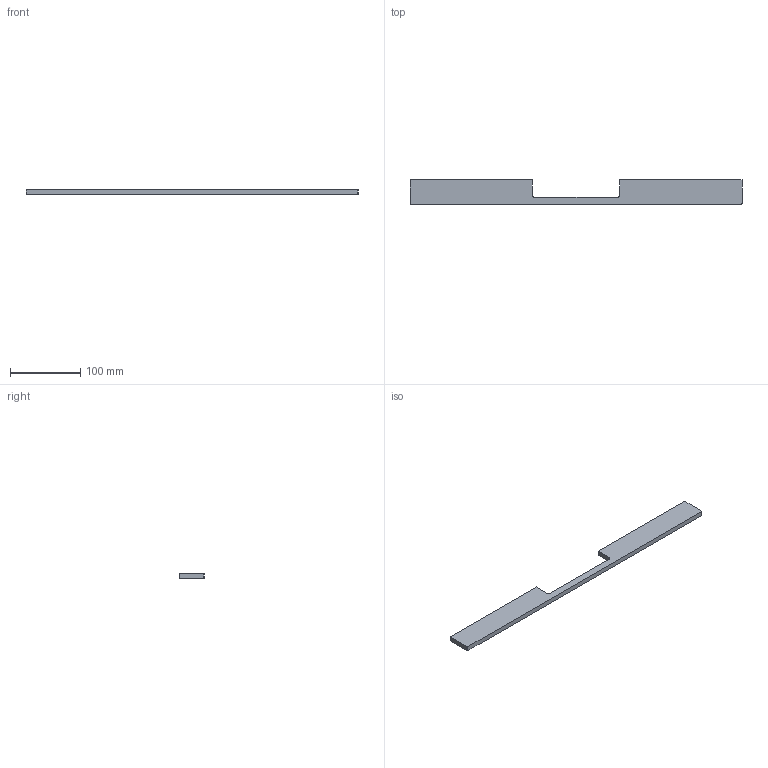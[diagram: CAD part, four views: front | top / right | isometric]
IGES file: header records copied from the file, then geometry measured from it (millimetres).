
Start section: Data from Parasolid IGES Translator 15.0.47, Copyright(c) 2006 Siemens P LM Software. All Rights Reserved.
Global section: file name: 115016.igs; native system:  By UGS Corp.; preprocessor: XPlus GENERIC/IGES 3.0; author: Noname; organization: Noname; date: 20140122.182513; units: millimetre
Bounding box: 472 x 35 x 7 mm (x, y, z)
Surface area: 34421.9 mm2 (no closed solid volume)
Topology: 0 solids, 0 shells, 18 faces, 84 edges, 82 vertices
Faces by surface type: extrusion 12, revolution 6
